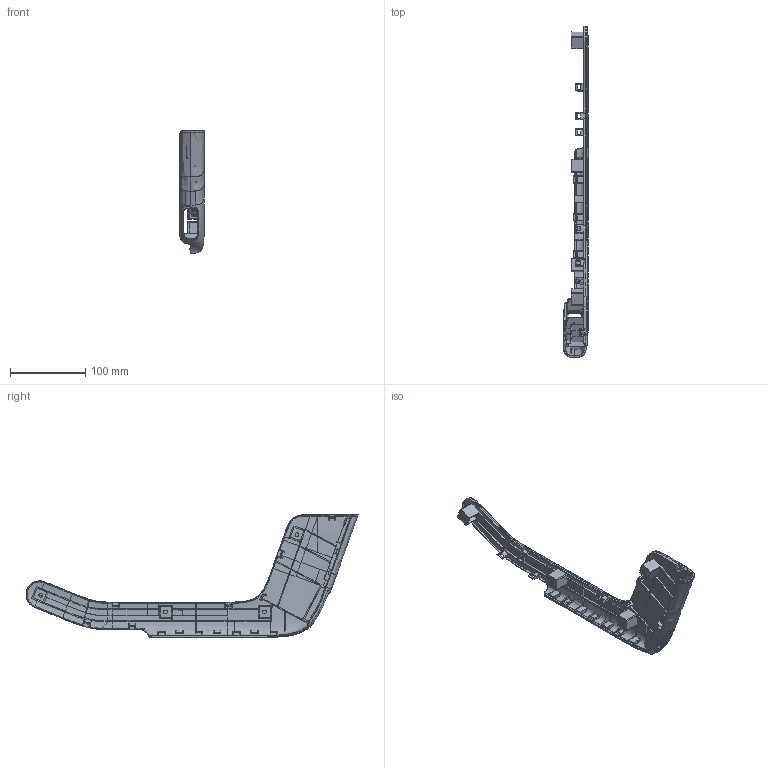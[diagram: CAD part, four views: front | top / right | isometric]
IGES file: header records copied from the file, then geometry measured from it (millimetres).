
Start section:  PTC IGES file: yc_sj_zs001345_01.igs
Global section: file name: yc_sj_zs001345_01.igs; native system: Creo Parametric by PTC Inc.; preprocessor: 2022164; author: casson.cai; organization: Unknown; date: 20260320.105321; units: millimetre
Bounding box: 32.3 x 442.31 x 163.62 mm (x, y, z)
Surface area: 97309.4 mm2 (no closed solid volume)
Topology: 0 solids, 0 shells, 973 faces, 5454 edges, 5452 vertices
Faces by surface type: bspline 738, revolution 126, extrusion 109
